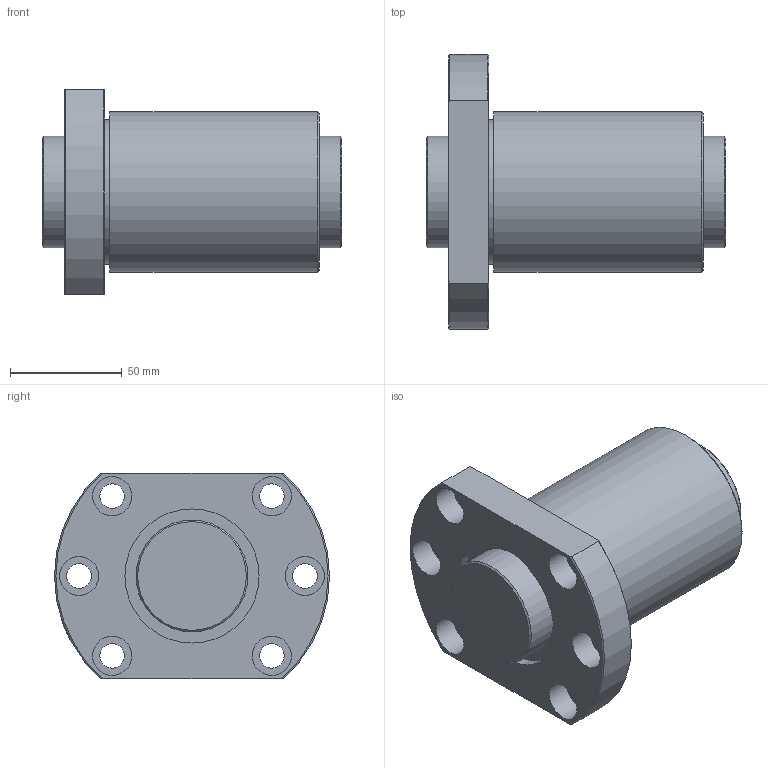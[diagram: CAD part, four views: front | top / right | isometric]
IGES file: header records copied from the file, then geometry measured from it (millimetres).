
Start section: Data from Parasolid IGES Translator 26.0.171, Copyright(c) 2006 Siemens PLM Software. All Rights Reserved.
Global section: file name: DK5010-6RRG1+134LC0_000.igs; native system: By Siemens PLM Incorporated; preprocessor: XPlus GENERIC/IGES 26.0.171; author: Noname; organization: Noname; date: 20250113.092057; units: millimetre
Bounding box: 134 x 123 x 92 mm (x, y, z)
Surface area: 93854 mm2 (no closed solid volume)
Topology: 0 solids, 0 shells, 46 faces, 200 edges, 176 vertices
Faces by surface type: revolution 30, extrusion 16
